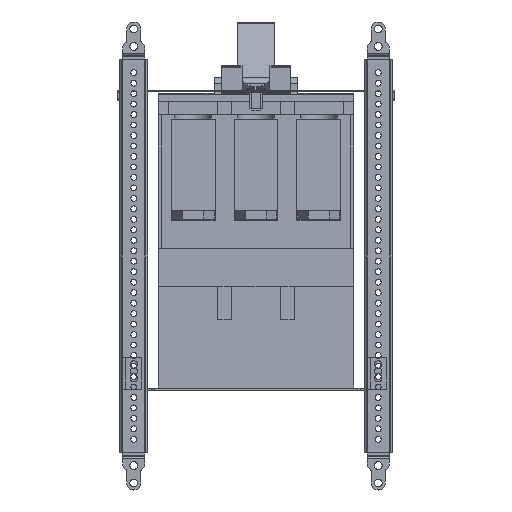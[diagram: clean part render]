
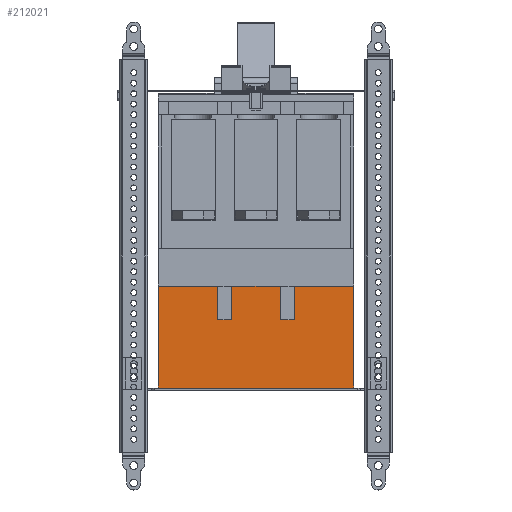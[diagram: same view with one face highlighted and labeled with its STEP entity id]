
A CAD part, left-side view. The second image highlights one B-rep face of the part: STEP entity #212021.
In plain terms, the highlighted planar face has unit normal (-1, 0, 0).
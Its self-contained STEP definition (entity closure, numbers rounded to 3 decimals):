
#208561=CARTESIAN_POINT(' ',(-152.261,-66.967,7.353));
#208562=VERTEX_POINT(' ',#208561);
#208576=CARTESIAN_POINT(' ',(-152.261,-66.967,-65.647));
#208581=DIRECTION(' ',(0.,0.,1.));
#208586=VECTOR(' ',#208581,1.);
#208591=LINE('',#208576,#208586);
#208596=CARTESIAN_POINT(' ',(-152.261,-66.967,-65.647));
#208597=VERTEX_POINT(' ',#208596);
#208601=EDGE_CURVE(' ',#208597,#208562,#208591,.T.);
#209416=CARTESIAN_POINT(' ',(-152.261,73.033,-65.647));
#209417=VERTEX_POINT(' ',#209416);
#209431=CARTESIAN_POINT(' ',(-152.261,73.033,-65.647));
#209436=DIRECTION(' ',(0.,0.,1.));
#209441=VECTOR(' ',#209436,1.);
#209446=LINE('',#209431,#209441);
#209451=CARTESIAN_POINT(' ',(-152.261,73.033,7.353));
#209452=VERTEX_POINT(' ',#209451);
#209456=EDGE_CURVE(' ',#209417,#209452,#209446,.T.);
#209906=CARTESIAN_POINT(' ',(-152.261,73.033,-65.647));
#209911=DIRECTION(' ',(0.,-1.,0.));
#209916=VECTOR(' ',#209911,1.);
#209921=LINE('',#209906,#209916);
#209926=EDGE_CURVE(' ',#209417,#208597,#209921,.T.);
#211356=CARTESIAN_POINT(' ',(-152.261,30.533,7.353));
#211357=VERTEX_POINT(' ',#211356);
#211426=CARTESIAN_POINT(' ',(-152.261,20.533,7.353));
#211427=VERTEX_POINT(' ',#211426);
#211496=CARTESIAN_POINT(' ',(-152.261,-24.467,7.353));
#211497=VERTEX_POINT(' ',#211496);
#211511=CARTESIAN_POINT(' ',(-152.261,-24.467,7.353));
#211516=DIRECTION(' ',(0.,-1.,0.));
#211521=VECTOR(' ',#211516,1.);
#211526=LINE('',#211511,#211521);
#211531=EDGE_CURVE(' ',#211497,#208562,#211526,.T.);
#211556=CARTESIAN_POINT(' ',(-152.261,73.033,7.353));
#211561=DIRECTION(' ',(0.,-1.,0.));
#211566=VECTOR(' ',#211561,1.);
#211571=LINE('',#211556,#211566);
#211576=EDGE_CURVE(' ',#209452,#211357,#211571,.T.);
#211726=DIRECTION(' ',(-1.,0.,0.));
#211731=CARTESIAN_POINT(' ',(-152.261,-66.967,7.353));
#211736=DIRECTION(' ',(0.,1.,0.));
#211741=AXIS2_PLACEMENT_3D(' ',#211731,#211726,#211736);
#211746=PLANE('NONE',#211741);
#211751=CARTESIAN_POINT(' ',(-152.261,-24.467,-16.647));
#211756=DIRECTION(' ',(0.,0.,1.));
#211761=VECTOR(' ',#211756,1.);
#211766=LINE('',#211751,#211761);
#211771=CARTESIAN_POINT(' ',(-152.261,-24.467,-16.647));
#211772=VERTEX_POINT(' ',#211771);
#211776=EDGE_CURVE(' ',#211772,#211497,#211766,.T.);
#211781=ORIENTED_EDGE(' ',*,*,#211776,.F.);
#211786=CARTESIAN_POINT(' ',(-152.261,-14.467,-16.647));
#211791=DIRECTION(' ',(0.,-1.,0.));
#211796=VECTOR(' ',#211791,1.);
#211801=LINE('',#211786,#211796);
#211806=CARTESIAN_POINT(' ',(-152.261,-14.467,-16.647));
#211807=VERTEX_POINT(' ',#211806);
#211811=EDGE_CURVE(' ',#211807,#211772,#211801,.T.);
#211816=ORIENTED_EDGE(' ',*,*,#211811,.F.);
#211821=CARTESIAN_POINT(' ',(-152.261,-14.467,7.353));
#211826=DIRECTION(' ',(0.,0.,-1.));
#211831=VECTOR(' ',#211826,1.);
#211836=LINE('',#211821,#211831);
#211841=CARTESIAN_POINT(' ',(-152.261,-14.467,7.353));
#211842=VERTEX_POINT(' ',#211841);
#211846=EDGE_CURVE(' ',#211842,#211807,#211836,.T.);
#211851=ORIENTED_EDGE(' ',*,*,#211846,.F.);
#211856=CARTESIAN_POINT(' ',(-152.261,-14.467,7.353));
#211861=DIRECTION(' ',(0.,1.,0.));
#211866=VECTOR(' ',#211861,1.);
#211871=LINE('',#211856,#211866);
#211876=EDGE_CURVE(' ',#211842,#211427,#211871,.T.);
#211881=ORIENTED_EDGE(' ',*,*,#211876,.T.);
#211886=CARTESIAN_POINT(' ',(-152.261,20.533,-16.647));
#211891=DIRECTION(' ',(0.,0.,1.));
#211896=VECTOR(' ',#211891,1.);
#211901=LINE('',#211886,#211896);
#211906=CARTESIAN_POINT(' ',(-152.261,20.533,-16.647));
#211907=VERTEX_POINT(' ',#211906);
#211911=EDGE_CURVE(' ',#211907,#211427,#211901,.T.);
#211916=ORIENTED_EDGE(' ',*,*,#211911,.F.);
#211921=CARTESIAN_POINT(' ',(-152.261,30.533,-16.647));
#211926=DIRECTION(' ',(0.,-1.,0.));
#211931=VECTOR(' ',#211926,1.);
#211936=LINE('',#211921,#211931);
#211941=CARTESIAN_POINT(' ',(-152.261,30.533,-16.647));
#211942=VERTEX_POINT(' ',#211941);
#211946=EDGE_CURVE(' ',#211942,#211907,#211936,.T.);
#211951=ORIENTED_EDGE(' ',*,*,#211946,.F.);
#211956=CARTESIAN_POINT(' ',(-152.261,30.533,7.353));
#211961=DIRECTION(' ',(0.,0.,-1.));
#211966=VECTOR(' ',#211961,1.);
#211971=LINE('',#211956,#211966);
#211976=EDGE_CURVE(' ',#211357,#211942,#211971,.T.);
#211981=ORIENTED_EDGE(' ',*,*,#211976,.F.);
#211986=ORIENTED_EDGE(' ',*,*,#211576,.F.);
#211991=ORIENTED_EDGE(' ',*,*,#209456,.F.);
#211996=ORIENTED_EDGE(' ',*,*,#209926,.T.);
#212001=ORIENTED_EDGE(' ',*,*,#208601,.T.);
#212006=ORIENTED_EDGE(' ',*,*,#211531,.F.);
#212011=EDGE_LOOP(' ',(#211781,#211816,#211851,#211881,#211916,#211951,#211981,#211986,#211991,#211996,#212001,#212006));
#212016=FACE_OUTER_BOUND(' ',#212011,.T.);
#212021=ADVANCED_FACE('NONE',(#212016),#211746,.T.);
